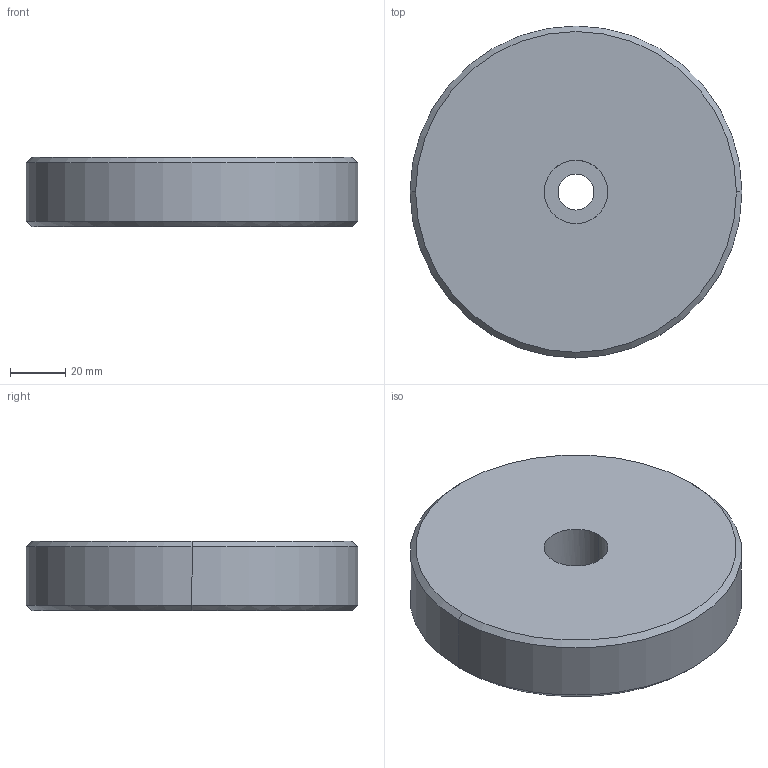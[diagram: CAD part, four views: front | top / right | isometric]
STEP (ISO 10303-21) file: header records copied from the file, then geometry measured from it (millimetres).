
FILE_DESCRIPTION(('CATIA V5 STEP Exchange'),'2;1');
FILE_NAME('C:\Users\Utente\Desktop\IO LAVORO\3D X SITO CF\X 3D SITO CF 27-09-2020\703\703.5.stp','2020-10-25T12:40:26+00:00',('none'),('none'),'CATIA Version 5 Release 20 GA (IN-10)','CATIA V5 STEP AP203','none');
FILE_SCHEMA(('CONFIG_CONTROL_DESIGN'));
Length unit declared in the file: millimetre
Products named in the file (1): 703.5
Bounding box: 120 x 120 x 25 mm (x, y, z)
Volume: 272844.4 mm3; surface area: 32471.5 mm2
Topology: 1 solids, 1 shells, 13 faces, 26 edges, 16 vertices
Faces by surface type: cylinder 6, cone 4, plane 3
Entity records: 458 total; most frequent: CARTESIAN_POINT 148, ORIENTED_EDGE 52, DIRECTION 48, AXIS2_PLACEMENT_3D 26, EDGE_CURVE 26, EDGE_LOOP 16, VERTEX_POINT 16, ADVANCED_FACE 13
